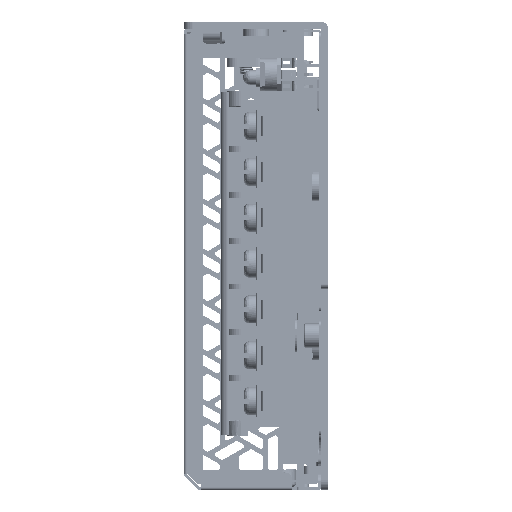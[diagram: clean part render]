
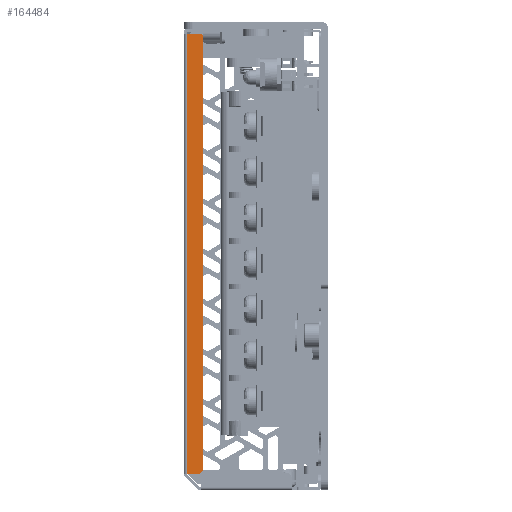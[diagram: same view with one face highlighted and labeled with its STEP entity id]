
A CAD part, left-side view. The second image highlights one B-rep face of the part: STEP entity #164484.
In plain terms, the highlighted free-form (B-spline) face has degree [3, 3] with [4, 4] control points.
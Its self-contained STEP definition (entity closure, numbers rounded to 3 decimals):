
#36028=CARTESIAN_POINT('',(-46.5,26.5,45.6));
#36029=DIRECTION('',(1.,0.,0.));
#36030=DIRECTION('',(0.,0.,1.));
#36031=AXIS2_PLACEMENT_3D('',#36028,#36029,#36030);
#36033=CARTESIAN_POINT('',(-46.5,27.,-44.151));
#36034=DIRECTION('',(1.,0.,0.));
#36035=DIRECTION('',(0.,-1.,0.));
#36036=AXIS2_PLACEMENT_3D('',#36033,#36034,#36035);
#36038=DIRECTION('',(0.,0.,1.));
#36039=VECTOR('',#36038,91.251);
#36040=CARTESIAN_POINT('',(-46.5,29.4,-45.151));
#36041=LINE('',#36040,#36039);
#36042=DIRECTION('',(0.,-1.,0.));
#36043=VECTOR('',#36042,2.9);
#36044=CARTESIAN_POINT('',(-46.5,29.4,46.1));
#36045=LINE('',#36044,#36043);
#36050=DIRECTION('',(0.,0.,1.));
#36051=VECTOR('',#36050,89.751);
#36052=CARTESIAN_POINT('',(-46.5,26.,-44.151));
#36053=LINE('',#36052,#36051);
#70162=DIRECTION('',(0.,-1.,0.));
#70163=VECTOR('',#70162,2.4);
#70164=CARTESIAN_POINT('',(-46.5,29.4,-45.151));
#70165=LINE('',#70164,#70163);
#84693=CARTESIAN_POINT('',(-46.5,29.4,-45.151));
#84694=CARTESIAN_POINT('',(-46.5,29.4,46.1));
#84695=VERTEX_POINT('',#84693);
#84696=VERTEX_POINT('',#84694);
#84703=CARTESIAN_POINT('',(-46.5,26.5,46.1));
#84704=VERTEX_POINT('',#84703);
#84705=CARTESIAN_POINT('',(-46.5,26.,45.6));
#84707=VERTEX_POINT('',#84705);
#84709=CARTESIAN_POINT('',(-46.5,26.,-44.151));
#84710=CARTESIAN_POINT('',(-46.5,27.,-45.151));
#84711=VERTEX_POINT('',#84709);
#84712=VERTEX_POINT('',#84710);
#164456=CARTESIAN_POINT('',(-46.5,29.598,47.925));
#164457=CARTESIAN_POINT('',(-46.5,28.333,47.925));
#164458=CARTESIAN_POINT('',(-46.5,27.067,47.925));
#164459=CARTESIAN_POINT('',(-46.5,25.802,47.925));
#164460=CARTESIAN_POINT('',(-46.5,29.598,16.291));
#164461=CARTESIAN_POINT('',(-46.5,28.333,16.291));
#164462=CARTESIAN_POINT('',(-46.5,27.067,16.291));
#164463=CARTESIAN_POINT('',(-46.5,25.802,16.291));
#164464=CARTESIAN_POINT('',(-46.5,29.598,-15.343));
#164465=CARTESIAN_POINT('',(-46.5,28.333,-15.343));
#164466=CARTESIAN_POINT('',(-46.5,27.067,-15.343));
#164467=CARTESIAN_POINT('',(-46.5,25.802,-15.343));
#164468=CARTESIAN_POINT('',(-46.5,29.598,-46.977));
#164469=CARTESIAN_POINT('',(-46.5,28.333,-46.977));
#164470=CARTESIAN_POINT('',(-46.5,27.067,-46.977));
#164471=CARTESIAN_POINT('',(-46.5,25.802,-46.977));
#164472=B_SPLINE_SURFACE_WITH_KNOTS('',3,3,((#164456,#164457,#164458,#164459),(
#164460,#164461,#164462,#164463),(#164464,#164465,#164466,#164467),(#164468,
#164469,#164470,#164471)),.UNSPECIFIED.,.F.,.F.,.F.,(4,4),(4,4),(
-95.825,-0.923),(0.402,4.198),
.UNSPECIFIED.);
#164473=ORIENTED_EDGE('',*,*,#164439,.T.);
#164475=ORIENTED_EDGE('',*,*,#164474,.F.);
#164477=ORIENTED_EDGE('',*,*,#164476,.T.);
#164479=ORIENTED_EDGE('',*,*,#164478,.F.);
#164480=ORIENTED_EDGE('',*,*,#164381,.T.);
#164481=ORIENTED_EDGE('',*,*,#164415,.T.);
#164482=EDGE_LOOP('',(#164473,#164475,#164477,#164479,#164480,#164481));
#164483=FACE_OUTER_BOUND('',#164482,.F.);
#164484=ADVANCED_FACE('',(#164483),#164472,.T.);
#36032=CIRCLE('',#36031,0.5);
#36037=CIRCLE('',#36036,1.);
#164381=EDGE_CURVE('',#84695,#84696,#36041,.T.);
#164415=EDGE_CURVE('',#84696,#84704,#36045,.T.);
#164439=EDGE_CURVE('',#84704,#84707,#36032,.T.);
#164474=EDGE_CURVE('',#84711,#84707,#36053,.T.);
#164476=EDGE_CURVE('',#84711,#84712,#36037,.T.);
#164478=EDGE_CURVE('',#84695,#84712,#70165,.T.);
